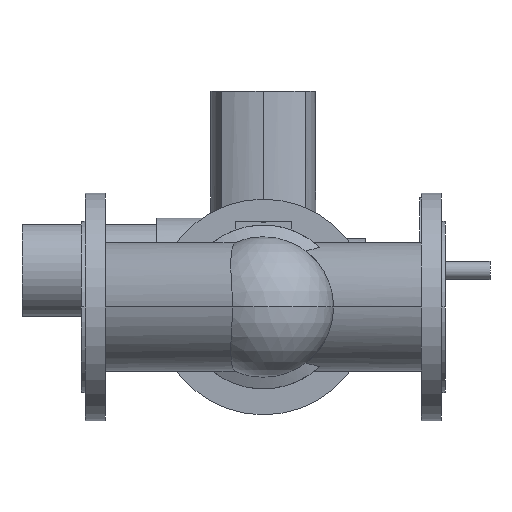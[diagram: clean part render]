
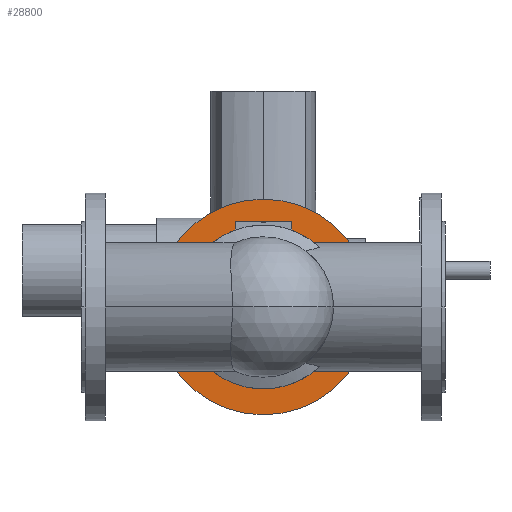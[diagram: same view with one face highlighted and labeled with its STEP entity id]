
A CAD part, front view. The second image highlights one B-rep face of the part: STEP entity #28800.
In plain terms, the highlighted planar face has unit normal (0, -1, 0).
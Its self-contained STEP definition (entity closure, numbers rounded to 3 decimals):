
#1340=CARTESIAN_POINT('',(318.5,114.2,0.));
#1350=VERTEX_POINT('',#1340);
#1400=CARTESIAN_POINT('',(200.,114.2,0.));
#1410=DIRECTION('',(0.,-1.,0.));
#1420=DIRECTION('',(-1.,0.,0.));
#1430=AXIS2_PLACEMENT_3D('',#1400,#1410,#1420);
#1440=CIRCLE('',#1430,118.5);
#1450=CARTESIAN_POINT('',(81.5,114.2,0.));
#1460=VERTEX_POINT('',#1450);
#1470=EDGE_CURVE('',#1350,#1460,#1440,.T.);
#1780=CARTESIAN_POINT('',(110.,114.2,0.));
#1790=VERTEX_POINT('',#1780);
#3290=CARTESIAN_POINT('',(290.,114.2,0.));
#3300=VERTEX_POINT('',#3290);
#3330=CARTESIAN_POINT('',(200.,114.2,0.));
#3340=DIRECTION('',(0.,-1.,0.));
#3350=DIRECTION('',(-1.,0.,0.));
#3360=AXIS2_PLACEMENT_3D('',#3330,#3340,#3350);
#3370=CIRCLE('',#3360,90.);
#3380=EDGE_CURVE('',#1790,#3300,#3370,.T.);
#28650=CARTESIAN_POINT('',(95.75,114.2,0.));
#28660=DIRECTION('',(0.,-1.,0.));
#28670=DIRECTION('',(-1.,0.,0.));
#28680=AXIS2_PLACEMENT_3D('',#28650,#28660,#28670);
#28690=PLANE('',#28680);
#28700=EDGE_CURVE('',#3300,#1790,#3370,.T.);
#28710=ORIENTED_EDGE('',*,*,#28700,.F.);
#28720=ORIENTED_EDGE('',*,*,#3380,.F.);
#28730=EDGE_LOOP('',(#28720,#28710));
#28740=FACE_BOUND('',#28730,.T.);
#28750=EDGE_CURVE('',#1460,#1350,#1440,.T.);
#28760=ORIENTED_EDGE('',*,*,#28750,.T.);
#28770=ORIENTED_EDGE('',*,*,#1470,.T.);
#28780=EDGE_LOOP('',(#28770,#28760));
#28790=FACE_OUTER_BOUND('',#28780,.T.);
#28800=ADVANCED_FACE('',(#28740,#28790),#28690,.T.);
